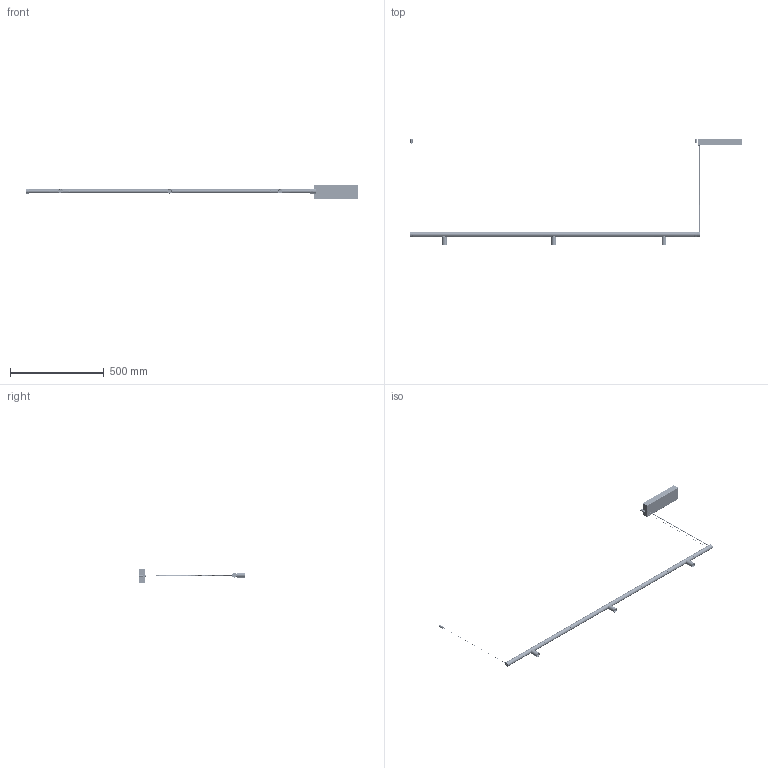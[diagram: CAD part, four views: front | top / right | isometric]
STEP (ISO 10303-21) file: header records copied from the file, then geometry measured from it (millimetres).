
FILE_DESCRIPTION (( 'STEP AP214' ), '1' );
FILE_NAME ('OVAL SPOT 15 surf.STEP', '2024-03-15T08:48:02', ( '' ), ( '' ), 'SwSTEP 2.0', 'SolidWorks 2024', '' );
FILE_SCHEMA (( 'AUTOMOTIVE_DESIGN' ));
Length unit declared in the file: millimetre
Products named in the file (43): Tapa Alimentación Perfil_SCPRE; Ensamble Tapa + Tope_Con Conector; Tija Tiny_Inyección ; Conector Molex Hembra 43020; Tapa Unión-Final V5_V5.1 Colgante Union ; Chapa Floron Micro_Techo; Kgp 100w-24V; Difusor Negro Oval_0.47m; Driver Entity EN1689; Essentra Pasamuro 498025; Tuerca Hembra Conector Jack; Boca Focus 25_ZDNTL; Tapa Micro V5_V5.1; Tapon Tapa_2; CJ01-ENS_Adaptador 24V_Proyector; Ensamble Led; Taco cuerpo Micro; Ensamble Conector Jack Unión_Alimentación Colgante SCPRE; 04-23DM03-Tope_Adaptador_1.3; Cable_VISUAL Alimentación Micro; Ensamble Floron Superficie_Colgante; Prisionero STEAB M4x4_8; Difusor Negro Oval_0.1m; 04-23DM01-Adaptador_Caja_DM01.3; Regulador Cable Ø0.6 (Bereta LT1007.0601); BLX V-4 Single Array; OVAL SPOT 15 surf; Ensamble Tensor Micro_Con Cable; Jack_Scpre; Taco Micro_Ø10 M10*5; Remache 3 Cabeza CONICA_remachado; 04-23DM02-Adaptador_Tapa(V1.2)_24V; Lente -115.11.HILL-20-22°-CREE; CJ04 - ENS Foco Spot (V1.2)_V3 09-20; CUI_DEVICES_PJ-005B_Ø2.5; Tubo Alu. Focus 25_V3-30-09-21; Perfil Micro V4_1.5m; Holder; Cable acero_0.5m; Imán_12d*5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
Assembly tree (56 placements, depth 4):
  OVAL SPOT 15 surf
    Perfil Micro V4_1.5m
    CJ01-ENS_Adaptador 24V_Proyector  x3
      04-23DM01-Adaptador_Caja_DM01.3
      04-23DM02-Adaptador_Tapa(V1.2)_24V
      Conector Molex Hembra 43020
      Driver Entity EN1689
      04-23DM03-Tope_Adaptador_1.3
      Tija Tiny_Inyección 
    CJ04 - ENS Foco Spot (V1.2)_V3 09-20  x3
      Tubo Alu. Focus 25_V3-30-09-21
      Boca Focus 25_ZDNTL
      Ensamble Led
        BLX V-4 Single Array
        Holder
        countersunk flat head cross recess screw_din_DIN EN ISO 7046-1 - M2.5 x 6 - Z - 6N  x2
      Prisionero STEAB M4x4_8
      Lente -115.11.HILL-20-22°-CREE
      DM05-Tapa SPOT(V1.2)
    Difusor Negro Oval_0.1m  x2
    Difusor Negro Oval_0.47m  x2
    Ensamble Tapa + Tope_Con Conector  x2
      Tapa Micro V5_V5.1
      CUI_DEVICES_PJ-005B_Ø2.5
      Tuerca Hembra Conector Jack
    Ensamble Tensor Micro_Con Cable  x2
      Taco Micro_Ø10 M10*5
      Taco cuerpo Micro
      Regulador Cable Ø0.6 (Bereta LT1007.0601)
      Cable acero_0.5m
    Tapa Unión-Final V5_V5.1 Colgante Union   x2
    Ensamble Floron Superficie_Colgante
      Kgp 100w-24V
      Embellecedor Floron Micro_Micro Colgante
      Chapa Floron Micro_Techo
      Remache 3 Cabeza CONICA_remachado  x2
      Imán_12d*5  x2
      Essentra Pasamuro 498025
    Ensamble Conector Jack Unión_Alimentación Colgante SCPRE
      Cable_VISUAL Alimentación Micro
      Jack_Scpre
      Tapa Alimentación Perfil_SCPRE
      Prisionero STEAB M4x4_8
    Tapon Tapa_2
Bounding box: 1774.44 x 567.27 x 75.27 mm (x, y, z)
Volume: 444975.3 mm3; surface area: 631683.2 mm2
Topology: 86 solids, 133 shells, 7432 faces, 19941 edges, 12832 vertices
Faces by surface type: plane 3398, cylinder 2395, bspline 735, torus 437, cone 333, sphere 134
Entity records: 162578 total; most frequent: CARTESIAN_POINT 68734, ORIENTED_EDGE 20537, DIRECTION 17741, EDGE_CURVE 10316, VERTEX_POINT 6733, LINE 6207, VECTOR 6207, AXIS2_PLACEMENT_3D 5767
